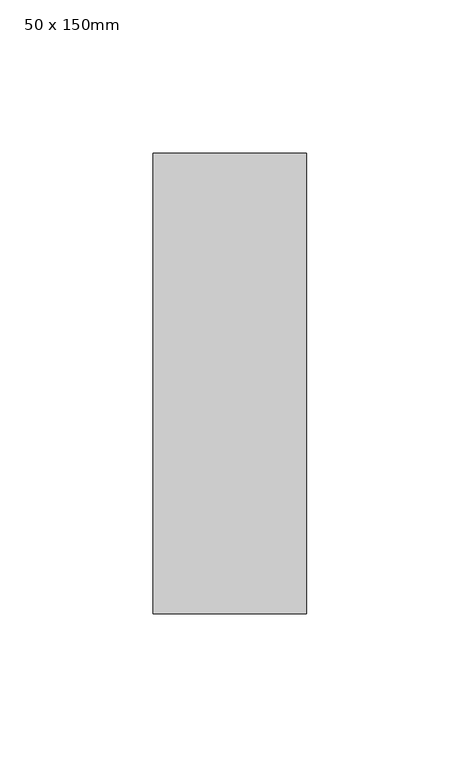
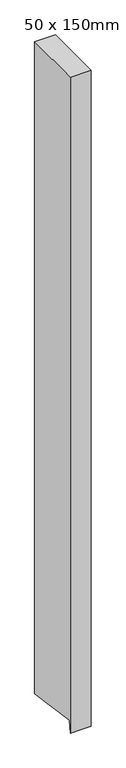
"""IFC4 building model written with IfcOpenShell, lengths in millimetres: member geometry, 矩形竖梃 : 50 x 150mm."""

from ifc_helpers import new_model, si_unit, origin, place, context, project, spatial, faceted_brep, source, transform, mapped, element, save


def member_50_x_150mm_57523fa1(model_context):
    return source(origin(), model_context, "Body", "Brep", [
        faceted_brep([(25.0, 75.0, 0.0), (-25.0, 75.0, 0.0), (-25.0, -75.0, 0.0), (25.0, -75.0, 0.0), (25.0, 75.0, -1672.9305333), (0.0, 75.0, -1672.9305333), (-25.0, 75.0, -1672.9305333), (-25.0, -70.9111958, -1652.9346667), (-25.0, -75.0, -1682.7709485), (0.0, -75.0, -1682.7709485), (25.0, -75.0, -1682.7709485), (25.0, -70.9111958, -1652.9346667), (0.0, -70.9111958, -1652.9346667)], [[[0, 1, 2, 3]], [[1, 0, 4, 5, 6]], [[2, 1, 6, 7, 8]], [[3, 2, 8, 9, 10]], [[0, 3, 10, 11, 4]], [[4, 11, 12, 5]], [[11, 10, 9, 12]], [[9, 8, 7, 12]], [[7, 6, 5, 12]]]),
    ])


if __name__ == "__main__":
    model = new_model("IFC4")
    model_context = context("Model", 3, world=origin())
    ifc_project = project(units=[si_unit("LENGTHUNIT", "METRE", prefix="MILLI")], contexts=[model_context])
    site = spatial("IfcSite", under=ifc_project)
    building = spatial("IfcBuilding", under=site)
    placement = place(None, origin())
    member_50_x_150mm_shape = member_50_x_150mm_57523fa1(model_context)
    element("IfcMember", 1, ObjectType="矩形竖梃 : 50 x 150mm", at=placement, inside=building, context=model_context, shape_type="MappedRepresentation", body=[
        mapped(member_50_x_150mm_shape, transform((0.0, 0.0, 0.0), x_axis=(1.0, 0.0, 0.0), y_axis=(0.0, 1.0, 0.0), z_axis=(0.0, 0.0, 1.0))),
    ])
    save(model, "model.ifc")
